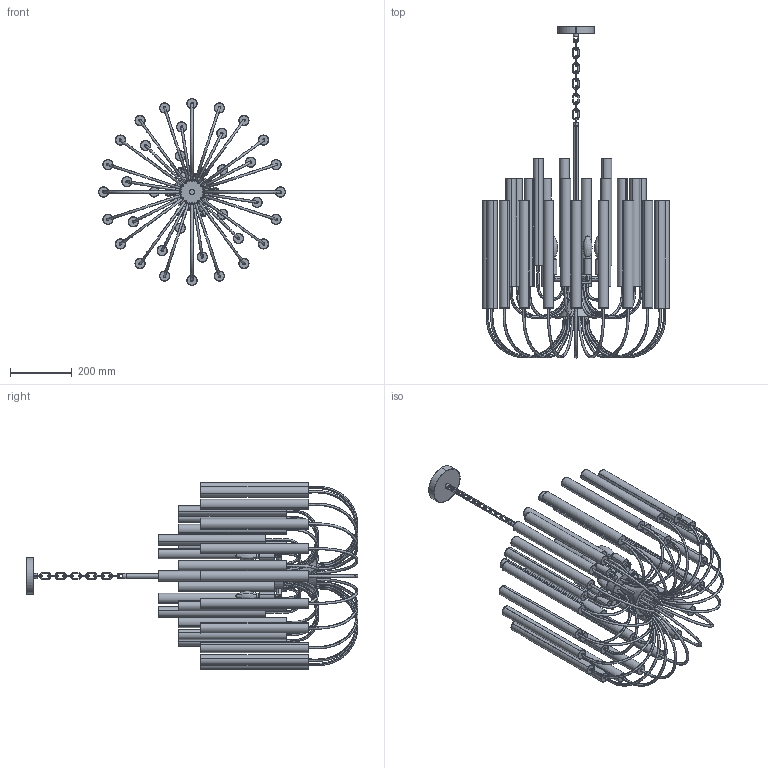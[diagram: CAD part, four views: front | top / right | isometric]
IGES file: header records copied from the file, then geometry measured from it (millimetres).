
Start section: SolidWorks IGES file using analytic representation for surfaces
Global section: file name: F:\燠隴矨\3D\2025-10\Swinton Chandelier-6heads.IGS,15; native system: HSolidWorks 2022; preprocessor: SolidWorks 2022; author: MyPC; date: 251029.095724; units: millimetre
Bounding box: 607.21 x 1078.49 x 607.21 mm (x, y, z)
Surface area: 3112107.7 mm2 (no closed solid volume)
Topology: 0 solids, 0 shells, 904 faces, 17752 edges, 17662 vertices
Faces by surface type: bspline 528, revolution 376
